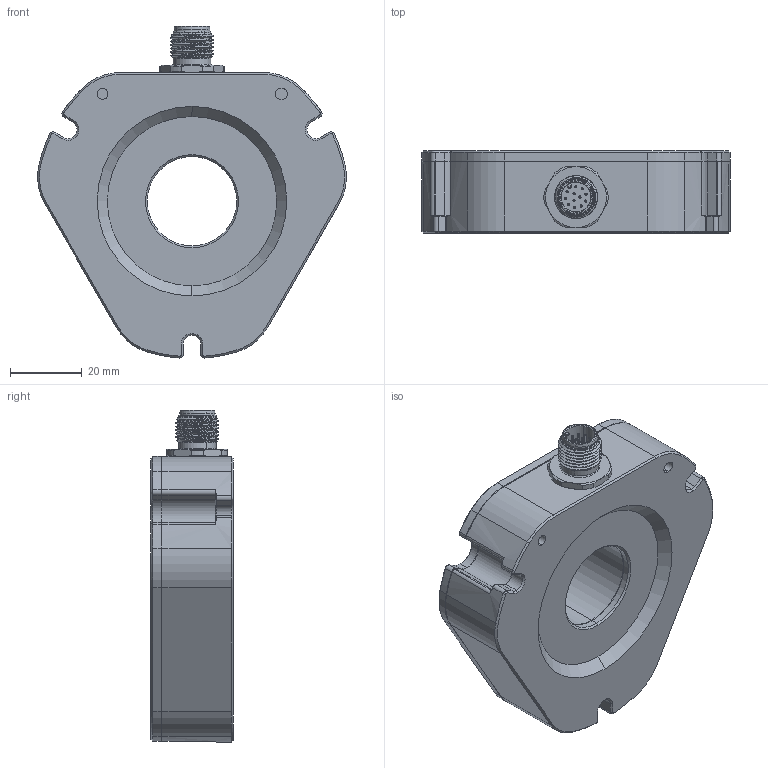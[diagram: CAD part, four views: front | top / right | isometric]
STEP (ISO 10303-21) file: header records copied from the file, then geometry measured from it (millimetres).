
FILE_DESCRIPTION (( 'STEP AP214' ), '1' );
FILE_NAME ('ORBIS_BR30_M12_connector.STEP', '2024-10-25T13:20:00', ( '' ), ( '' ), 'SwSTEP 2.0', 'SolidWorks 2022', '' );
FILE_SCHEMA (( 'AUTOMOTIVE_DESIGN' ));
Length unit declared in the file: millimetre
Products named in the file (1): ORBIS_BR30_M12_connector
Bounding box: 86.31 x 23 x 92.86 mm (x, y, z)
Volume: 102777.7 mm3; surface area: 20927.4 mm2
Topology: 8 solids, 8 shells, 1300 faces, 3262 edges, 2035 vertices
Faces by surface type: plane 423, cylinder 331, bspline 264, cone 234, torus 48
Entity records: 68383 total; most frequent: CARTESIAN_POINT 24707, ORIENTED_EDGE 6476, DIRECTION 5476, EDGE_CURVE 3238, VERTEX_POINT 2035, AXIS2_PLACEMENT_3D 1998, LINE 1480, VECTOR 1480
